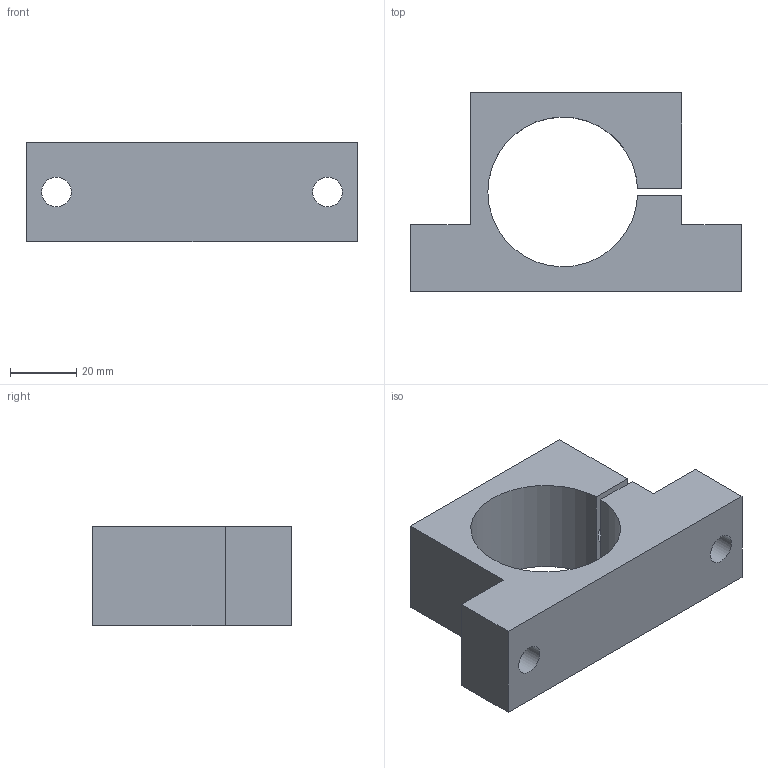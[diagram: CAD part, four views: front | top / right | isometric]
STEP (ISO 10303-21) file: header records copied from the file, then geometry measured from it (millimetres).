
FILE_DESCRIPTION(/* description */ (''),/* implementation_level */ '2;1');
FILE_NAME(/* name */ 'C:\Users\Jefferson\Desktop\Biblioteca Pro Nitro 2024\Flanges\PNB-57-XXX\PNB-57-045.stp',/* time_stamp */ '2024-01-29T10:06:49-03:00',/* author */ ('Jefferson'),/* organization */ (''),/* preprocessor_version */ 'ST-DEVELOPER v18.1',/* originating_system */ 'Autodesk Inventor 2021',/* authorisation */ '');
FILE_SCHEMA (('AUTOMOTIVE_DESIGN { 1 0 10303 214 3 1 1 }'));
Length unit declared in the file: millimetre
Products named in the file (1): PNB-57-045
Bounding box: 100 x 60 x 30 mm (x, y, z)
Volume: 81482 mm3; surface area: 22598 mm2
Topology: 1 solids, 1 shells, 167 faces, 455 edges, 306 vertices
Faces by surface type: plane 100, bspline 60, cylinder 6, cone 1
Full cylindrical faces by diameter (mm): 6.647 x1, 9 x3, 15 x1
Entity records: 5602 total; most frequent: CARTESIAN_POINT 1708, ORIENTED_EDGE 908, DIRECTION 571, EDGE_CURVE 454, LINE 313, VECTOR 313, VERTEX_POINT 306, EDGE_LOOP 190
